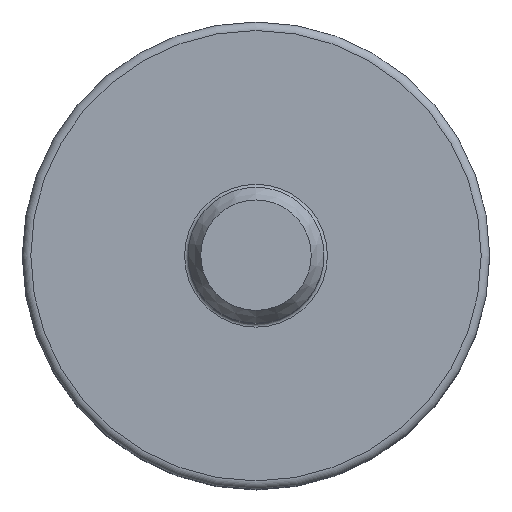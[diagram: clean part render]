
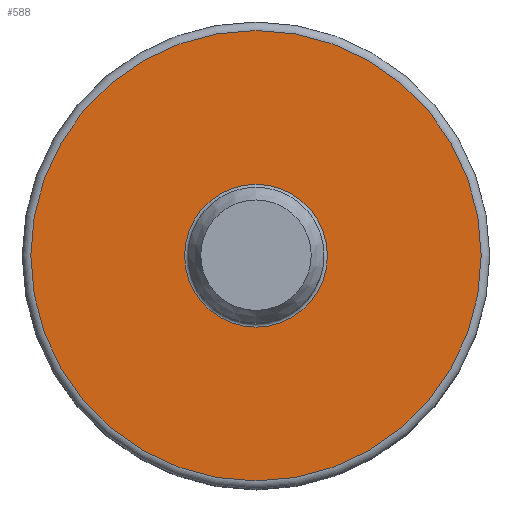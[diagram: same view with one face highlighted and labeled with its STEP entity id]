
A CAD part, top view. The second image highlights one B-rep face of the part: STEP entity #588.
In plain terms, the highlighted planar face has unit normal (0, 0, 1).
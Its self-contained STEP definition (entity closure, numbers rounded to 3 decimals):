
#30=FACE_BOUND('',#203,.T.);
#58=PLANE('',#654);
#153=FACE_OUTER_BOUND('',#202,.T.);
#202=EDGE_LOOP('',(#487));
#203=EDGE_LOOP('',(#488));
#261=CIRCLE('',#655,26.5);
#262=CIRCLE('',#656,8.4);
#312=VERTEX_POINT('',#985);
#313=VERTEX_POINT('',#987);
#377=EDGE_CURVE('',#312,#312,#261,.T.);
#378=EDGE_CURVE('',#313,#313,#262,.T.);
#487=ORIENTED_EDGE('',*,*,#377,.T.);
#488=ORIENTED_EDGE('',*,*,#378,.F.);
#588=ADVANCED_FACE('',(#153,#30),#58,.T.);
#654=AXIS2_PLACEMENT_3D('',#984,#807,#808);
#655=AXIS2_PLACEMENT_3D('',#986,#809,#810);
#656=AXIS2_PLACEMENT_3D('',#988,#811,#812);
#807=DIRECTION('center_axis',(0.,0.,1.));
#808=DIRECTION('ref_axis',(1.,0.,0.));
#809=DIRECTION('center_axis',(0.,0.,1.));
#810=DIRECTION('ref_axis',(0.,-1.,0.));
#811=DIRECTION('center_axis',(0.,0.,1.));
#812=DIRECTION('ref_axis',(0.,-1.,0.));
#984=CARTESIAN_POINT('Origin',(0.,-4.2,0.));
#985=CARTESIAN_POINT('',(0.,-26.5,0.));
#986=CARTESIAN_POINT('Origin',(0.,0.,0.));
#987=CARTESIAN_POINT('',(0.,-8.4,0.));
#988=CARTESIAN_POINT('Origin',(0.,0.,0.));
